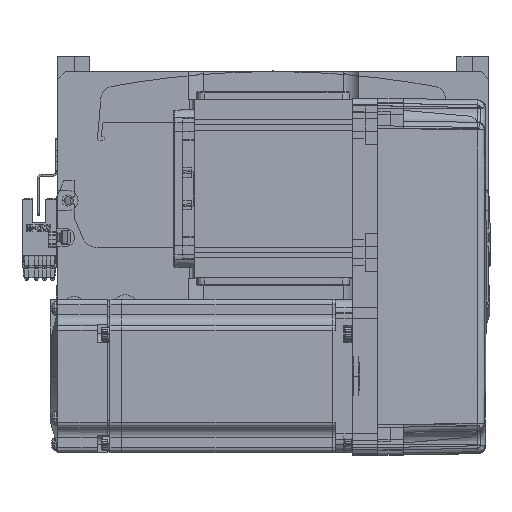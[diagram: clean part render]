
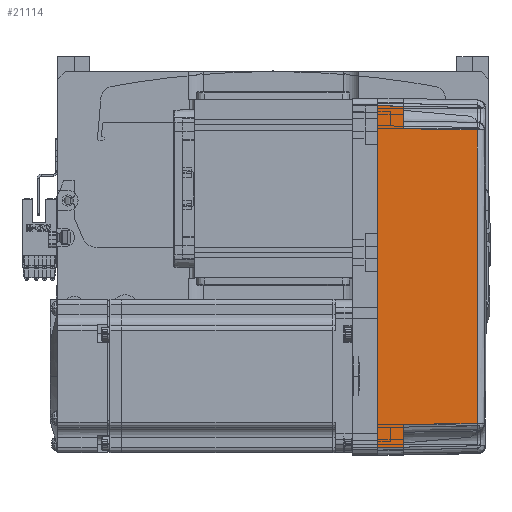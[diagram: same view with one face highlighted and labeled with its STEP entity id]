
A CAD part, top view. The second image highlights one B-rep face of the part: STEP entity #21114.
In plain terms, the highlighted planar face has unit normal (0.018, 0, 1) as drawn and (0, 1, 0.017) by its records, which use the part's own axes.
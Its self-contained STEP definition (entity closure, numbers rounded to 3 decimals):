
#41 = LINE ( 'NONE', #10955, #12876 ) ;
#161 = DIRECTION ( 'NONE',  ( 1., 0., 0. ) ) ;
#1722 = VECTOR ( 'NONE', #33342, 1000. ) ;
#3858 = LINE ( 'NONE', #56979, #9859 ) ;
#5353 = EDGE_CURVE ( 'NONE', #48594, #24962, #46238, .T. ) ;
#5590 = ORIENTED_EDGE ( 'NONE', *, *, #48861, .T. ) ;
#5774 = EDGE_LOOP ( 'NONE', ( #53380, #32924, #43483, #24351, #26484, #5590, #6835, #62865 ) ) ;
#6275 = B_SPLINE_CURVE_WITH_KNOTS ( 'NONE', 3,
 ( #57182, #14114, #8351, #51876 ),
 .UNSPECIFIED., .F., .F.,
 ( 4, 4 ),
 ( 0., 1. ),
 .UNSPECIFIED. ) ;
#6773 = CARTESIAN_POINT ( 'NONE',  ( -67., 36., 0. ) ) ;
#6835 = ORIENTED_EDGE ( 'NONE', *, *, #28131, .F. ) ;
#7231 = DIRECTION ( 'NONE',  ( 1., 0., 0. ) ) ;
#8351 = CARTESIAN_POINT ( 'NONE',  ( 19.165, 35.316, 39.181 ) ) ;
#9443 = VECTOR ( 'NONE', #35719, 1000. ) ;
#9859 = VECTOR ( 'NONE', #12523, 1000. ) ;
#10607 = EDGE_CURVE ( 'NONE', #68774, #62580, #65392, .T. ) ;
#10955 = CARTESIAN_POINT ( 'NONE',  ( 70., 35.825, 10. ) ) ;
#12523 = DIRECTION ( 'NONE',  ( 0.017, 0.017, -1. ) ) ;
#12876 = VECTOR ( 'NONE', #161, 1000. ) ;
#12888 = VECTOR ( 'NONE', #7231, 1000. ) ;
#13346 = CARTESIAN_POINT ( 'NONE',  ( -58., 35.825, 10. ) ) ;
#14114 = CARTESIAN_POINT ( 'NONE',  ( -19.165, 35.316, 39.181 ) ) ;
#14561 = DIRECTION ( 'NONE',  ( 0., 1., 0.017 ) ) ;
#14565 = CARTESIAN_POINT ( 'NONE',  ( 67.001, 36.001, -0.052 ) ) ;
#15325 = VERTEX_POINT ( 'NONE', #51054 ) ;
#17748 = FACE_OUTER_BOUND ( 'NONE', #5774, .T. ) ;
#17999 = CARTESIAN_POINT ( 'NONE',  ( 0., 36., 0. ) ) ;
#18821 = LINE ( 'NONE', #14565, #35929 ) ;
#20280 = DIRECTION ( 'NONE',  ( 0.017, -0.017, 1. ) ) ;
#21114 = ADVANCED_FACE ( 'NONE', ( #17748 ), #34381, .T. ) ;
#24351 = ORIENTED_EDGE ( 'NONE', *, *, #57763, .T. ) ;
#24962 = VERTEX_POINT ( 'NONE', #49413 ) ;
#25723 = LINE ( 'NONE', #6773, #1722 ) ;
#26484 = ORIENTED_EDGE ( 'NONE', *, *, #65820, .T. ) ;
#26893 = VECTOR ( 'NONE', #20280, 1000. ) ;
#26918 = CARTESIAN_POINT ( 'NONE',  ( -67., 36., 0. ) ) ;
#28131 = EDGE_CURVE ( 'NONE', #24962, #39955, #18821, .T. ) ;
#32924 = ORIENTED_EDGE ( 'NONE', *, *, #64145, .T. ) ;
#33342 = DIRECTION ( 'NONE',  ( 0.017, -0.017, 1. ) ) ;
#34381 = PLANE ( 'NONE',  #39191 ) ;
#35719 = DIRECTION ( 'NONE',  ( 1., 0., 0. ) ) ;
#35929 = VECTOR ( 'NONE', #59000, 1000. ) ;
#36294 = CARTESIAN_POINT ( 'NONE',  ( -58., 35.825, 10. ) ) ;
#39191 = AXIS2_PLACEMENT_3D ( 'NONE', #57122, #14561, #61114 ) ;
#39955 = VERTEX_POINT ( 'NONE', #41411 ) ;
#40249 = LINE ( 'NONE', #63719, #9443 ) ;
#41411 = CARTESIAN_POINT ( 'NONE',  ( 66.826, 35.825, 10. ) ) ;
#43483 = ORIENTED_EDGE ( 'NONE', *, *, #10607, .T. ) ;
#46238 = LINE ( 'NONE', #17999, #12888 ) ;
#46717 = CARTESIAN_POINT ( 'NONE',  ( 58., 35.825, 10. ) ) ;
#48594 = VERTEX_POINT ( 'NONE', #26918 ) ;
#48735 = EDGE_CURVE ( 'NONE', #48594, #67201, #25723, .T. ) ;
#48861 = EDGE_CURVE ( 'NONE', #56132, #39955, #40249, .T. ) ;
#49413 = CARTESIAN_POINT ( 'NONE',  ( 67., 36., 0. ) ) ;
#51054 = CARTESIAN_POINT ( 'NONE',  ( 57.495, 35.32, 38.985 ) ) ;
#51876 = CARTESIAN_POINT ( 'NONE',  ( 57.495, 35.32, 38.985 ) ) ;
#53380 = ORIENTED_EDGE ( 'NONE', *, *, #48735, .T. ) ;
#56132 = VERTEX_POINT ( 'NONE', #46717 ) ;
#56979 = CARTESIAN_POINT ( 'NONE',  ( 57.495, 35.32, 38.985 ) ) ;
#57122 = CARTESIAN_POINT ( 'NONE',  ( 70., 36., 0. ) ) ;
#57182 = CARTESIAN_POINT ( 'NONE',  ( -57.495, 35.32, 38.985 ) ) ;
#57763 = EDGE_CURVE ( 'NONE', #62580, #15325, #6275, .T. ) ;
#59000 = DIRECTION ( 'NONE',  ( -0.017, -0.017, 1. ) ) ;
#60294 = CARTESIAN_POINT ( 'NONE',  ( -57.495, 35.32, 38.985 ) ) ;
#61114 = DIRECTION ( 'NONE',  ( 0., -0.017, 1. ) ) ;
#62580 = VERTEX_POINT ( 'NONE', #60294 ) ;
#62865 = ORIENTED_EDGE ( 'NONE', *, *, #5353, .F. ) ;
#63719 = CARTESIAN_POINT ( 'NONE',  ( 70., 35.825, 10. ) ) ;
#64145 = EDGE_CURVE ( 'NONE', #67201, #68774, #41, .T. ) ;
#65392 = LINE ( 'NONE', #36294, #26893 ) ;
#65820 = EDGE_CURVE ( 'NONE', #15325, #56132, #3858, .T. ) ;
#67201 = VERTEX_POINT ( 'NONE', #67354 ) ;
#67354 = CARTESIAN_POINT ( 'NONE',  ( -66.826, 35.825, 10. ) ) ;
#68774 = VERTEX_POINT ( 'NONE', #13346 ) ;
